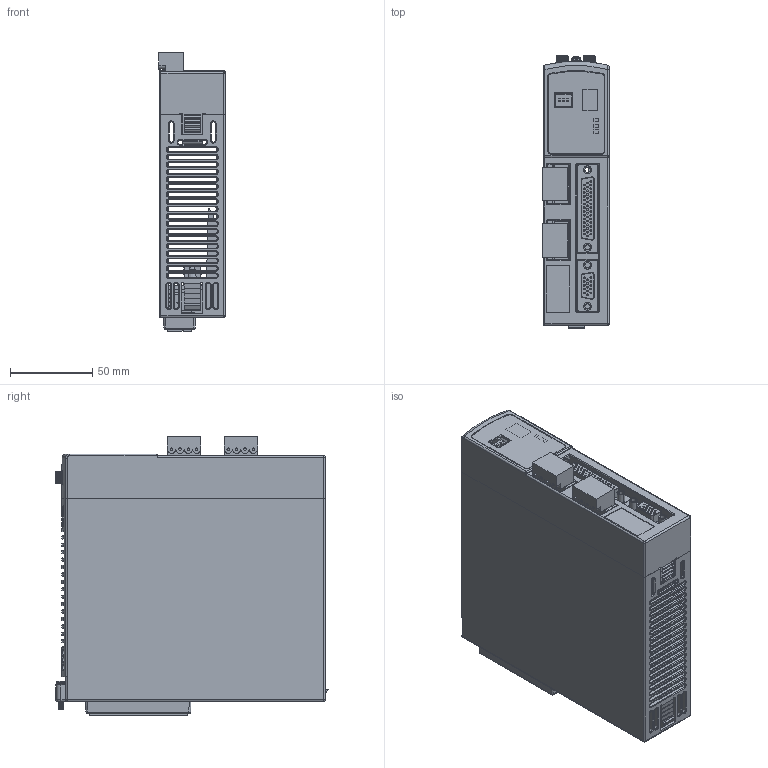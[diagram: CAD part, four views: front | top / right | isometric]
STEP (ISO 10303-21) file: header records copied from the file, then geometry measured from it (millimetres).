
FILE_DESCRIPTION((''),'2;1');
FILE_NAME('RA_AM_400W_ASSY_ASM','2009-04-28T',('administrator'),(''),'PRO/ENGINEER BY PARAMETRIC TECHNOLOGY CORPORATION, 2005110','PRO/ENGINEER BY PARAMETRIC TECHNOLOGY CORPORATION, 2005110','');
FILE_SCHEMA(('CONFIG_CONTROL_DESIGN'));
Length unit declared in the file: millimetre
Products named in the file (21): COVER_FRONT_SW_AM; SL508_90B_4_AF0; SL508_90B_4_AF1; BLZ508_180_4_AF0; INVERTER_CONNECTOR_1_AF0; BLZ508_180_4_AF1; ASM_INVERTER_BOARD_ASM; CONTACT_15; CONTACT_44; RA_TYPE_MAIN_CONTROL_ASM; SMALL_BOARD_7_SEGMENT; SMALL_BOARD_HFBR_X505X_U1; SMALL_BOARD_HFBR_X505X_U2; SMALL_BOARD_LED; SMALL_BOARD_S1; SMALL_BOARD_ASM; AM_RA_TYPE_BOARD_ASM; COVER_SIDE_SW_AM; SCREW_MACHINE_M3_L15; DISPLAY-LABEL; RA_AM_400W_ASSY_ASM
Assembly tree (22 placements, depth 4):
  RA_AM_400W_ASSY_ASM
    COVER_FRONT_SW_AM
    AM_RA_TYPE_BOARD_ASM
      ASM_INVERTER_BOARD_ASM
        SL508_90B_4_AF0
        SL508_90B_4_AF1
        BLZ508_180_4_AF0
        INVERTER_CONNECTOR_1_AF0
        BLZ508_180_4_AF1
      RA_TYPE_MAIN_CONTROL_ASM
        CONTACT_15
        CONTACT_44
      SMALL_BOARD_ASM
        SMALL_BOARD_7_SEGMENT
        SMALL_BOARD_HFBR_X505X_U1
        SMALL_BOARD_HFBR_X505X_U2
        SMALL_BOARD_LED  x3
        SMALL_BOARD_S1
    COVER_SIDE_SW_AM
    SCREW_MACHINE_M3_L15
    DISPLAY-LABEL
Bounding box: 40.3 x 165.17 x 169.26 mm (x, y, z)
Volume: 192657.2 mm3; surface area: 184473.2 mm2
Topology: 27 solids, 29 shells, 4061 faces, 10420 edges, 6642 vertices
Faces by surface type: plane 2377, cylinder 1169, torus 236, bspline 158, cone 87, sphere 34
Entity records: 140759 total; most frequent: CARTESIAN_POINT 42541, ORIENTED_EDGE 20708, DIRECTION 19461, EDGE_CURVE 10354, VECTOR 6903, LINE 6903, VERTEX_POINT 6610, AXIS2_PLACEMENT_3D 6279
